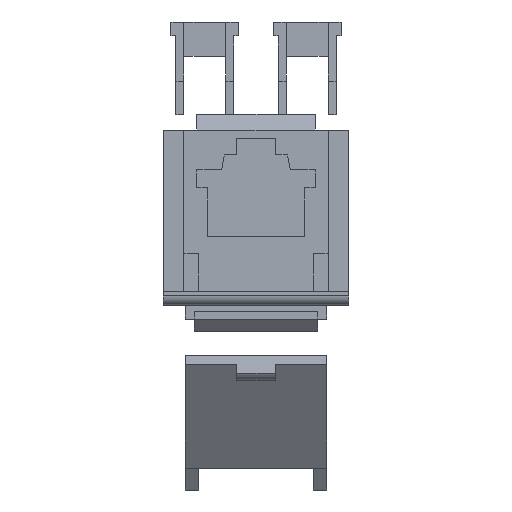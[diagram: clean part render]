
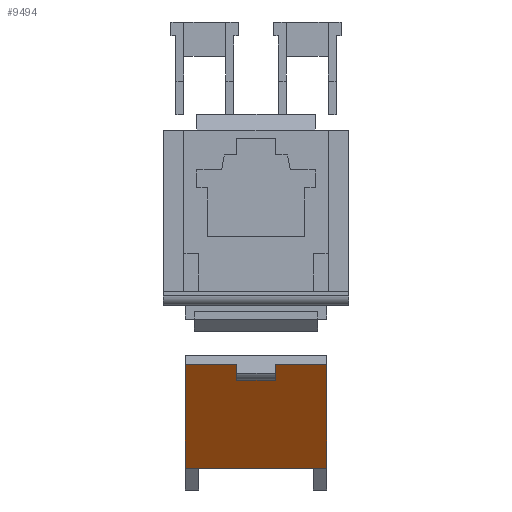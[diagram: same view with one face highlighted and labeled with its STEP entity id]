
A CAD part, left-side view. The second image highlights one B-rep face of the part: STEP entity #9494.
In plain terms, the highlighted free-form (B-spline) face has degree [1, 1] with [2, 2] control points.
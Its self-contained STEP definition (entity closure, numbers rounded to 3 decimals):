
#8770=CARTESIAN_POINT('',(-12.028,-7.1,-17.755));
#8771=VERTEX_POINT('',#8770);
#8781=CARTESIAN_POINT('',(-12.028,7.1,-17.755));
#8782=VERTEX_POINT('',#8781);
#8783=CARTESIAN_POINT('',(-12.028,-7.1,-17.755));
#8784=CARTESIAN_POINT('',(-12.028,-4.26,-17.755));
#8785=CARTESIAN_POINT('',(-12.028,-1.42,-17.755));
#8786=CARTESIAN_POINT('',(-12.028,1.42,-17.755));
#8787=CARTESIAN_POINT('',(-12.028,4.26,-17.755));
#8788=CARTESIAN_POINT('',(-12.028,7.1,-17.755));
#8789=B_SPLINE_CURVE_WITH_KNOTS('',5,(#8783,#8784,#8785,#8786,#8787,#8788),.UNSPECIFIED.,.F.,.U.,(6,6),(0.,14.2),.UNSPECIFIED.);
#8790=EDGE_CURVE('',#8771,#8782,#8789,.T.);
#9411=CARTESIAN_POINT('',(-12.028,-7.1,-17.755));
#9412=CARTESIAN_POINT('',(-12.028,7.1,-17.755));
#9413=CARTESIAN_POINT('',(-19.519,-7.1,-7.338));
#9414=CARTESIAN_POINT('',(-19.519,7.1,-7.338));
#9415=B_SPLINE_SURFACE_WITH_KNOTS('',1,1,((#9411,#9412),(#9413,#9414)),.PLANE_SURF.,.F.,.F.,.U.,(2,2),(2,2),(0.,1.),(0.,1.107),.UNSPECIFIED.);
#9416=CARTESIAN_POINT('',(-18.657,1.95,-8.537));
#9417=VERTEX_POINT('',#9416);
#9418=CARTESIAN_POINT('',(-19.519,1.95,-7.338));
#9419=VERTEX_POINT('',#9418);
#9420=CARTESIAN_POINT('',(-18.657,1.95,-8.537));
#9421=CARTESIAN_POINT('',(-18.829,1.95,-8.297));
#9422=CARTESIAN_POINT('',(-19.002,1.95,-8.057));
#9423=CARTESIAN_POINT('',(-19.174,1.95,-7.818));
#9424=CARTESIAN_POINT('',(-19.347,1.95,-7.578));
#9425=CARTESIAN_POINT('',(-19.519,1.95,-7.338));
#9426=B_SPLINE_CURVE_WITH_KNOTS('',5,(#9420,#9421,#9422,#9423,#9424,#9425),.UNSPECIFIED.,.F.,.U.,(6,6),(0.,1.477),.UNSPECIFIED.);
#9427=EDGE_CURVE('',#9417,#9419,#9426,.T.);
#9428=ORIENTED_EDGE('',*,*,#9427,.T.);
#9429=CARTESIAN_POINT('',(-19.519,7.1,-7.338));
#9430=VERTEX_POINT('',#9429);
#9431=CARTESIAN_POINT('',(-19.519,1.95,-7.338));
#9432=CARTESIAN_POINT('',(-19.519,2.98,-7.338));
#9433=CARTESIAN_POINT('',(-19.519,4.01,-7.338));
#9434=CARTESIAN_POINT('',(-19.519,5.04,-7.338));
#9435=CARTESIAN_POINT('',(-19.519,6.07,-7.338));
#9436=CARTESIAN_POINT('',(-19.519,7.1,-7.338));
#9437=B_SPLINE_CURVE_WITH_KNOTS('',5,(#9431,#9432,#9433,#9434,#9435,#9436),.UNSPECIFIED.,.F.,.U.,(6,6),(0.,5.15),.UNSPECIFIED.);
#9438=EDGE_CURVE('',#9419,#9430,#9437,.T.);
#9439=ORIENTED_EDGE('',*,*,#9438,.T.);
#9440=CARTESIAN_POINT('',(-12.028,7.1,-17.755));
#9441=CARTESIAN_POINT('',(-13.526,7.1,-15.672));
#9442=CARTESIAN_POINT('',(-15.024,7.1,-13.588));
#9443=CARTESIAN_POINT('',(-16.522,7.1,-11.505));
#9444=CARTESIAN_POINT('',(-18.021,7.1,-9.421));
#9445=CARTESIAN_POINT('',(-19.519,7.1,-7.338));
#9446=B_SPLINE_CURVE_WITH_KNOTS('',5,(#9440,#9441,#9442,#9443,#9444,#9445),.UNSPECIFIED.,.F.,.U.,(6,6),(0.,12.831),.UNSPECIFIED.);
#9447=EDGE_CURVE('',#8782,#9430,#9446,.T.);
#9448=ORIENTED_EDGE('',*,*,#9447,.F.);
#9449=ORIENTED_EDGE('',*,*,#8790,.F.);
#9450=CARTESIAN_POINT('',(-19.519,-7.1,-7.338));
#9451=VERTEX_POINT('',#9450);
#9452=CARTESIAN_POINT('',(-19.519,-7.1,-7.338));
#9453=CARTESIAN_POINT('',(-18.021,-7.1,-9.421));
#9454=CARTESIAN_POINT('',(-16.522,-7.1,-11.505));
#9455=CARTESIAN_POINT('',(-15.024,-7.1,-13.588));
#9456=CARTESIAN_POINT('',(-13.526,-7.1,-15.672));
#9457=CARTESIAN_POINT('',(-12.028,-7.1,-17.755));
#9458=B_SPLINE_CURVE_WITH_KNOTS('',5,(#9452,#9453,#9454,#9455,#9456,#9457),.UNSPECIFIED.,.F.,.U.,(6,6),(0.,12.831),.UNSPECIFIED.);
#9459=EDGE_CURVE('',#9451,#8771,#9458,.T.);
#9460=ORIENTED_EDGE('',*,*,#9459,.F.);
#9461=CARTESIAN_POINT('',(-19.519,-1.95,-7.338));
#9462=VERTEX_POINT('',#9461);
#9463=CARTESIAN_POINT('',(-19.519,-7.1,-7.338));
#9464=CARTESIAN_POINT('',(-19.519,-6.07,-7.338));
#9465=CARTESIAN_POINT('',(-19.519,-5.04,-7.338));
#9466=CARTESIAN_POINT('',(-19.519,-4.01,-7.338));
#9467=CARTESIAN_POINT('',(-19.519,-2.98,-7.338));
#9468=CARTESIAN_POINT('',(-19.519,-1.95,-7.338));
#9469=B_SPLINE_CURVE_WITH_KNOTS('',5,(#9463,#9464,#9465,#9466,#9467,#9468),.UNSPECIFIED.,.F.,.U.,(6,6),(0.,5.15),.UNSPECIFIED.);
#9470=EDGE_CURVE('',#9451,#9462,#9469,.T.);
#9471=ORIENTED_EDGE('',*,*,#9470,.T.);
#9472=CARTESIAN_POINT('',(-18.657,-1.95,-8.537));
#9473=VERTEX_POINT('',#9472);
#9474=CARTESIAN_POINT('',(-18.657,-1.95,-8.537));
#9475=CARTESIAN_POINT('',(-18.829,-1.95,-8.297));
#9476=CARTESIAN_POINT('',(-19.002,-1.95,-8.057));
#9477=CARTESIAN_POINT('',(-19.174,-1.95,-7.818));
#9478=CARTESIAN_POINT('',(-19.347,-1.95,-7.578));
#9479=CARTESIAN_POINT('',(-19.519,-1.95,-7.338));
#9480=B_SPLINE_CURVE_WITH_KNOTS('',5,(#9474,#9475,#9476,#9477,#9478,#9479),.UNSPECIFIED.,.F.,.U.,(6,6),(0.,1.477),.UNSPECIFIED.);
#9481=EDGE_CURVE('',#9473,#9462,#9480,.T.);
#9482=ORIENTED_EDGE('',*,*,#9481,.F.);
#9483=CARTESIAN_POINT('',(-18.657,1.95,-8.537));
#9484=CARTESIAN_POINT('',(-18.657,1.17,-8.537));
#9485=CARTESIAN_POINT('',(-18.657,0.39,-8.537));
#9486=CARTESIAN_POINT('',(-18.657,-0.39,-8.537));
#9487=CARTESIAN_POINT('',(-18.657,-1.17,-8.537));
#9488=CARTESIAN_POINT('',(-18.657,-1.95,-8.537));
#9489=B_SPLINE_CURVE_WITH_KNOTS('',5,(#9483,#9484,#9485,#9486,#9487,#9488),.UNSPECIFIED.,.F.,.U.,(6,6),(0.,3.9),.UNSPECIFIED.);
#9490=EDGE_CURVE('',#9417,#9473,#9489,.T.);
#9491=ORIENTED_EDGE('',*,*,#9490,.F.);
#9492=EDGE_LOOP('',(#9428,#9439,#9448,#9449,#9460,#9471,#9482,#9491));
#9493=FACE_OUTER_BOUND('',#9492,.T.);
#9494=ADVANCED_FACE('',(#9493),#9415,.T.);
